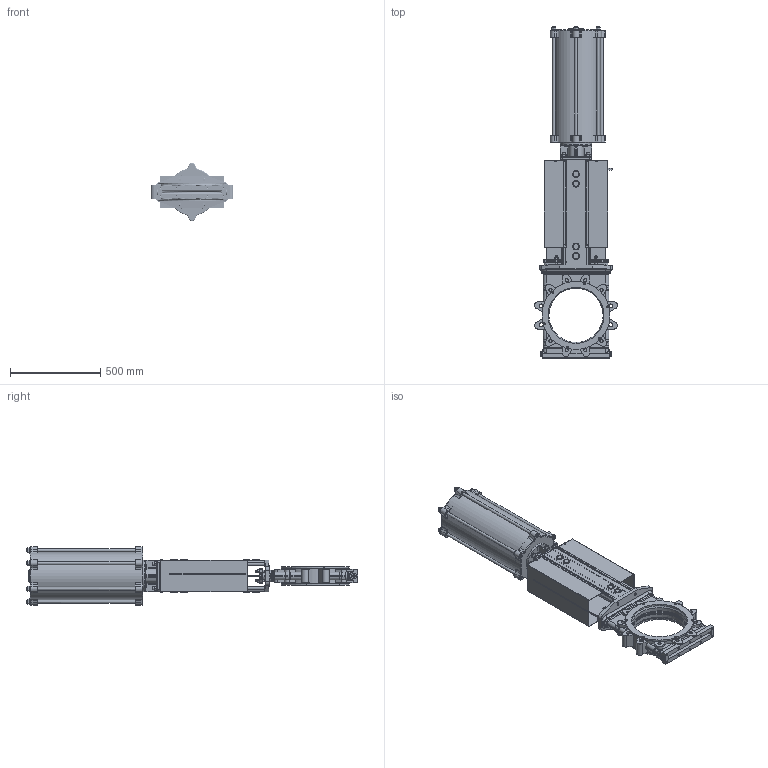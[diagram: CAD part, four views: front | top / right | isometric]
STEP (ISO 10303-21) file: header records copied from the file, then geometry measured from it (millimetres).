
FILE_DESCRIPTION(/* description */ (''),/* implementation_level */ '2;1');
FILE_NAME(/* name */ 'F:\3D-block färdiga för export\SLV-SLF\DN 300\SLV-DN300-PN10-FRSC250-400-LDR.stp',/* time_stamp */ '2021-06-16T14:59:25+02:00',/* author */ ('MATZET'),/* organization */ (''),/* preprocessor_version */ 'ST-DEVELOPER v18',/* originating_system */ 'Autodesk Inventor 2020',/* authorisation */ '');
FILE_SCHEMA (('AUTOMOTIVE_DESIGN { 1 0 10303 214 3 1 1 }'));
Products named in the file (1): SLV-DN300-PN10-FRSC250-400-LDR_Shrinkwrap_1
Bounding box: 457.28 x 1837 x 322 mm (x, y, z)
Volume: 22615552.6 mm3; surface area: 5315098.7 mm2
Topology: 1 solids, 1 shells, 3069 faces, 7882 edges, 4977 vertices
Faces by surface type: plane 1222, cylinder 851, cone 346, torus 299, bspline 231, sphere 120
Full cylindrical faces by diameter (mm): 3 x12, 3.5 x8, 3.6 x2, 4.2 x16, 4.917 x8, 6 x12, 6.4 x1, 6.647 x4, 7 x2, 7.5 x16, 8.376 x4, 8.5 x10, 9 x1, 9.5 x2, 10 x12, 10.106 x2, 11 x12, 12 x13, 12.5 x6, 13 x10, 14 x7, 15 x4, 16 x28, 17 x10, 17.5 x22, 18 x1, 18.2 x4, 18.5 x2, 18.631 x2, 22.49 x4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
Entity records: 113977 total; most frequent: CARTESIAN_POINT 36498, DIRECTION 16236, ORIENTED_EDGE 15636, EDGE_CURVE 7818, AXIS2_PLACEMENT_3D 6668, VERTEX_POINT 4977, CIRCLE 3633, EDGE_LOOP 3485
